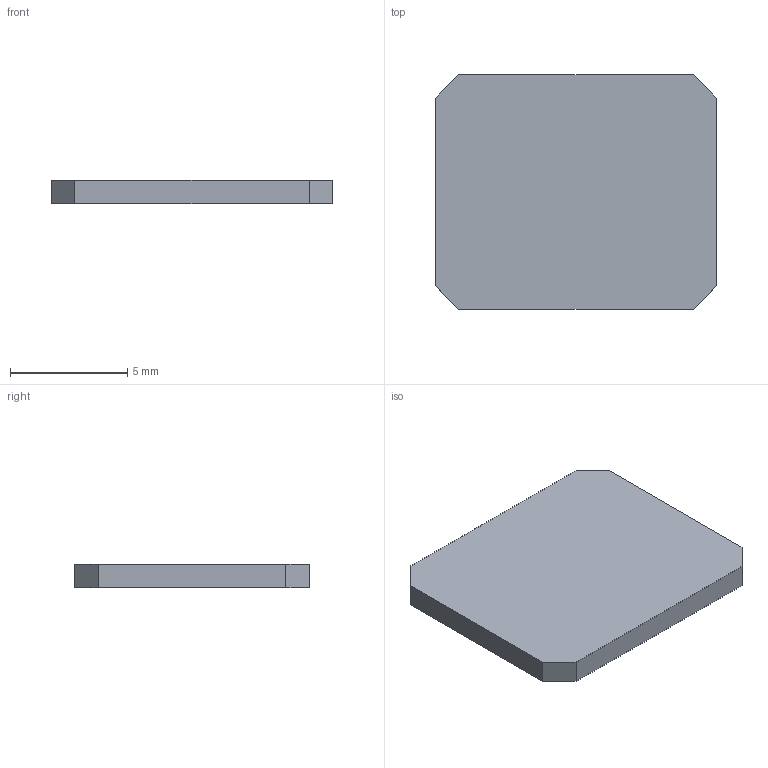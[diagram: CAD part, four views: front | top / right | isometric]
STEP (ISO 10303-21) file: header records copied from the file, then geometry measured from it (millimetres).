
FILE_DESCRIPTION(('Open CASCADE Model'),'2;1');
FILE_NAME('Open CASCADE Shape Model','2026-09-24T15:56:08',('Author'),( 'Open CASCADE'),'Open CASCADE STEP processor 7.8','Open CASCADE 7.8' ,'Unknown');
FILE_SCHEMA(('AUTOMOTIVE_DESIGN { 1 0 10303 214 1 1 1 1 }'));
Length unit declared in the file: millimetre
Products named in the file (1): Open CASCADE STEP translator 7.8 2
Bounding box: 12 x 10 x 1 mm (x, y, z)
Volume: 118 mm3; surface area: 277.7 mm2
Topology: 1 solids, 1 shells, 10 faces, 24 edges, 16 vertices
Faces by surface type: plane 10
Entity records: 610 total; most frequent: CARTESIAN_POINT 99, DIRECTION 94, LINE 72, VECTOR 72, ORIENTED_EDGE 48, PCURVE 48, DEFINITIONAL_REPRESENTATION 48, EDGE_CURVE 24
